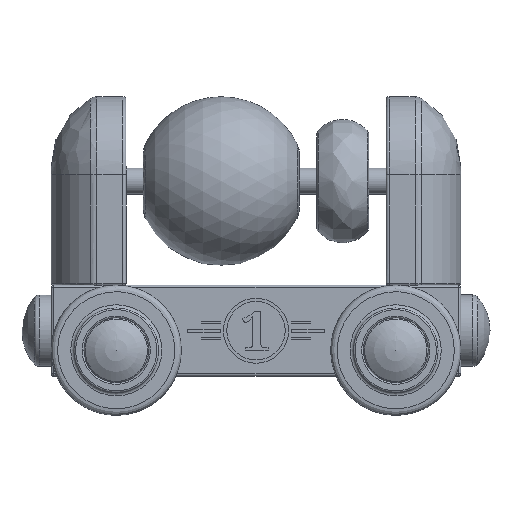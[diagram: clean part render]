
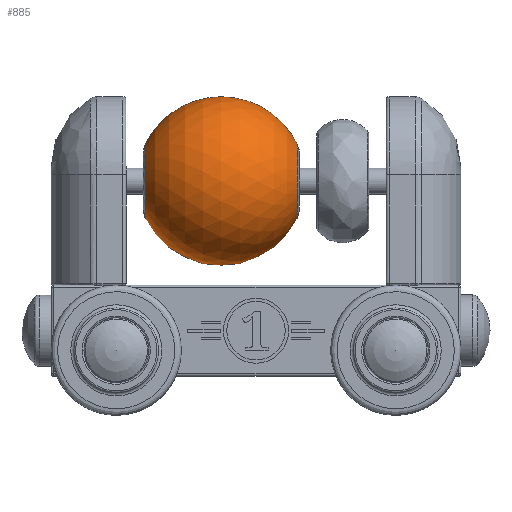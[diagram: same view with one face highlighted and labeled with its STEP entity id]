
A CAD part, front view. The second image highlights one B-rep face of the part: STEP entity #885.
In plain terms, the highlighted spherical face has radius 13 mm.
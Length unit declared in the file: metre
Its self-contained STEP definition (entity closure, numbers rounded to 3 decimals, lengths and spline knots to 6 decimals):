
#885 = ADVANCED_FACE( '', ( #1783, #1784 ), #1785, .T. );
#1783 = FACE_OUTER_BOUND( '', #3592, .T. );
#1784 = FACE_OUTER_BOUND( '', #3593, .T. );
#1785 = SPHERICAL_SURFACE( '', #3594, 0.013 );
#3592 = EDGE_LOOP( '', ( #5871 ) );
#3593 = EDGE_LOOP( '', ( #5872 ) );
#3594 = AXIS2_PLACEMENT_3D( '', #5873, #5874, #5875 );
#5871 = ORIENTED_EDGE( '', *, *, #7654, .T. );
#5872 = ORIENTED_EDGE( '', *, *, #7579, .T. );
#5873 = CARTESIAN_POINT( '', ( -0.005333, 0., 0.036 ) );
#5874 = DIRECTION( '', ( -1., 0., 0. ) );
#5875 = DIRECTION( '', ( 0., 0., 1. ) );
#7579 = EDGE_CURVE( '', #8673, #8673, #8674, .T. );
#7654 = EDGE_CURVE( '', #8788, #8788, #8789, .T. );
#8673 = VERTEX_POINT( '', #10570 );
#8674 = B_SPLINE_CURVE_WITH_KNOTS( '', 3, ( #10571, #10572, #10573, #10574, #10575, #10576, #10577, #10578, #10579, #10580, #10581, #10582, #10583, #10584, #10585, #10586, #10587, #10588, #10589, #10590, #10591, #10592, #10593, #10594, #10595, #10596, #10597, #10598, #10599, #10600, #10601, #10602, #10603, #10604 ), .UNSPECIFIED., .T., .F., ( 2, 2, 2, 2, 2, 2, 2, 2, 2, 2, 2, 2, 2, 2, 2, 2, 2, 2, 2 ), ( -0.0625, 0., 0.0625, 0.125, 0.1875, 0.25, 0.3125, 0.375, 0.4375, 0.5, 0.5625, 0.625, 0.6875, 0.75, 0.8125, 0.875, 0.9375, 1., 1.0625 ), .UNSPECIFIED. );
#8788 = VERTEX_POINT( '', #10904 );
#8789 = B_SPLINE_CURVE_WITH_KNOTS( '', 3, ( #10905, #10906, #10907, #10908, #10909, #10910, #10911, #10912, #10913, #10914, #10915, #10916, #10917, #10918, #10919, #10920, #10921, #10922, #10923, #10924, #10925, #10926, #10927, #10928, #10929, #10930, #10931, #10932, #10933, #10934, #10935, #10936, #10937, #10938 ), .UNSPECIFIED., .T., .F., ( 2, 2, 2, 2, 2, 2, 2, 2, 2, 2, 2, 2, 2, 2, 2, 2, 2, 2, 2 ), ( -0.0625, 0., 0.0625, 0.125, 0.1875, 0.25, 0.3125, 0.375, 0.4375, 0.5, 0.5625, 0.625, 0.6875, 0.75, 0.8125, 0.875, 0.9375, 1., 1.0625 ), .UNSPECIFIED. );
#10570 = CARTESIAN_POINT( '', ( -0.017033, 0., 0.041667 ) );
#10571 = CARTESIAN_POINT( '', ( -0.017033, 0.000742, 0.041667 ) );
#10572 = CARTESIAN_POINT( '', ( -0.017033, -0.000742, 0.041667 ) );
#10573 = CARTESIAN_POINT( '', ( -0.017033, -0.001483, 0.041519 ) );
#10574 = CARTESIAN_POINT( '', ( -0.017033, -0.002854, 0.040951 ) );
#10575 = CARTESIAN_POINT( '', ( -0.017033, -0.003482, 0.040531 ) );
#10576 = CARTESIAN_POINT( '', ( -0.017033, -0.004531, 0.039482 ) );
#10577 = CARTESIAN_POINT( '', ( -0.017033, -0.004951, 0.038854 ) );
#10578 = CARTESIAN_POINT( '', ( -0.017033, -0.005519, 0.037483 ) );
#10579 = CARTESIAN_POINT( '', ( -0.017033, -0.005667, 0.036742 ) );
#10580 = CARTESIAN_POINT( '', ( -0.017033, -0.005667, 0.035258 ) );
#10581 = CARTESIAN_POINT( '', ( -0.017033, -0.005519, 0.034517 ) );
#10582 = CARTESIAN_POINT( '', ( -0.017033, -0.004951, 0.033146 ) );
#10583 = CARTESIAN_POINT( '', ( -0.017033, -0.004531, 0.032518 ) );
#10584 = CARTESIAN_POINT( '', ( -0.017033, -0.003482, 0.031469 ) );
#10585 = CARTESIAN_POINT( '', ( -0.017033, -0.002854, 0.031049 ) );
#10586 = CARTESIAN_POINT( '', ( -0.017033, -0.001483, 0.030481 ) );
#10587 = CARTESIAN_POINT( '', ( -0.017033, -0.000742, 0.030333 ) );
#10588 = CARTESIAN_POINT( '', ( -0.017033, 0.000742, 0.030333 ) );
#10589 = CARTESIAN_POINT( '', ( -0.017033, 0.001483, 0.030481 ) );
#10590 = CARTESIAN_POINT( '', ( -0.017033, 0.002854, 0.031049 ) );
#10591 = CARTESIAN_POINT( '', ( -0.017033, 0.003482, 0.031469 ) );
#10592 = CARTESIAN_POINT( '', ( -0.017033, 0.004531, 0.032518 ) );
#10593 = CARTESIAN_POINT( '', ( -0.017033, 0.004951, 0.033146 ) );
#10594 = CARTESIAN_POINT( '', ( -0.017033, 0.005519, 0.034517 ) );
#10595 = CARTESIAN_POINT( '', ( -0.017033, 0.005667, 0.035258 ) );
#10596 = CARTESIAN_POINT( '', ( -0.017033, 0.005667, 0.036742 ) );
#10597 = CARTESIAN_POINT( '', ( -0.017033, 0.005519, 0.037483 ) );
#10598 = CARTESIAN_POINT( '', ( -0.017033, 0.004951, 0.038854 ) );
#10599 = CARTESIAN_POINT( '', ( -0.017033, 0.004531, 0.039482 ) );
#10600 = CARTESIAN_POINT( '', ( -0.017033, 0.003482, 0.040531 ) );
#10601 = CARTESIAN_POINT( '', ( -0.017033, 0.002854, 0.040951 ) );
#10602 = CARTESIAN_POINT( '', ( -0.017033, 0.001483, 0.041519 ) );
#10603 = CARTESIAN_POINT( '', ( -0.017033, 0.000742, 0.041667 ) );
#10604 = CARTESIAN_POINT( '', ( -0.017033, -0.000742, 0.041667 ) );
#10904 = CARTESIAN_POINT( '', ( 0.006367, 0., 0.041667 ) );
#10905 = CARTESIAN_POINT( '', ( 0.006367, -0.000742, 0.041667 ) );
#10906 = CARTESIAN_POINT( '', ( 0.006367, 0.000742, 0.041667 ) );
#10907 = CARTESIAN_POINT( '', ( 0.006367, 0.001483, 0.041519 ) );
#10908 = CARTESIAN_POINT( '', ( 0.006367, 0.002854, 0.040951 ) );
#10909 = CARTESIAN_POINT( '', ( 0.006367, 0.003482, 0.040531 ) );
#10910 = CARTESIAN_POINT( '', ( 0.006367, 0.004531, 0.039482 ) );
#10911 = CARTESIAN_POINT( '', ( 0.006367, 0.004951, 0.038854 ) );
#10912 = CARTESIAN_POINT( '', ( 0.006367, 0.005519, 0.037483 ) );
#10913 = CARTESIAN_POINT( '', ( 0.006367, 0.005667, 0.036742 ) );
#10914 = CARTESIAN_POINT( '', ( 0.006367, 0.005667, 0.035258 ) );
#10915 = CARTESIAN_POINT( '', ( 0.006367, 0.005519, 0.034517 ) );
#10916 = CARTESIAN_POINT( '', ( 0.006367, 0.004951, 0.033146 ) );
#10917 = CARTESIAN_POINT( '', ( 0.006367, 0.004531, 0.032518 ) );
#10918 = CARTESIAN_POINT( '', ( 0.006367, 0.003482, 0.031469 ) );
#10919 = CARTESIAN_POINT( '', ( 0.006367, 0.002854, 0.031049 ) );
#10920 = CARTESIAN_POINT( '', ( 0.006367, 0.001483, 0.030481 ) );
#10921 = CARTESIAN_POINT( '', ( 0.006367, 0.000742, 0.030333 ) );
#10922 = CARTESIAN_POINT( '', ( 0.006367, -0.000742, 0.030333 ) );
#10923 = CARTESIAN_POINT( '', ( 0.006367, -0.001483, 0.030481 ) );
#10924 = CARTESIAN_POINT( '', ( 0.006367, -0.002854, 0.031049 ) );
#10925 = CARTESIAN_POINT( '', ( 0.006367, -0.003482, 0.031469 ) );
#10926 = CARTESIAN_POINT( '', ( 0.006367, -0.004531, 0.032518 ) );
#10927 = CARTESIAN_POINT( '', ( 0.006367, -0.004951, 0.033146 ) );
#10928 = CARTESIAN_POINT( '', ( 0.006367, -0.005519, 0.034517 ) );
#10929 = CARTESIAN_POINT( '', ( 0.006367, -0.005667, 0.035258 ) );
#10930 = CARTESIAN_POINT( '', ( 0.006367, -0.005667, 0.036742 ) );
#10931 = CARTESIAN_POINT( '', ( 0.006367, -0.005519, 0.037483 ) );
#10932 = CARTESIAN_POINT( '', ( 0.006367, -0.004951, 0.038854 ) );
#10933 = CARTESIAN_POINT( '', ( 0.006367, -0.004531, 0.039482 ) );
#10934 = CARTESIAN_POINT( '', ( 0.006367, -0.003482, 0.040531 ) );
#10935 = CARTESIAN_POINT( '', ( 0.006367, -0.002854, 0.040951 ) );
#10936 = CARTESIAN_POINT( '', ( 0.006367, -0.001483, 0.041519 ) );
#10937 = CARTESIAN_POINT( '', ( 0.006367, -0.000742, 0.041667 ) );
#10938 = CARTESIAN_POINT( '', ( 0.006367, 0.000742, 0.041667 ) );
